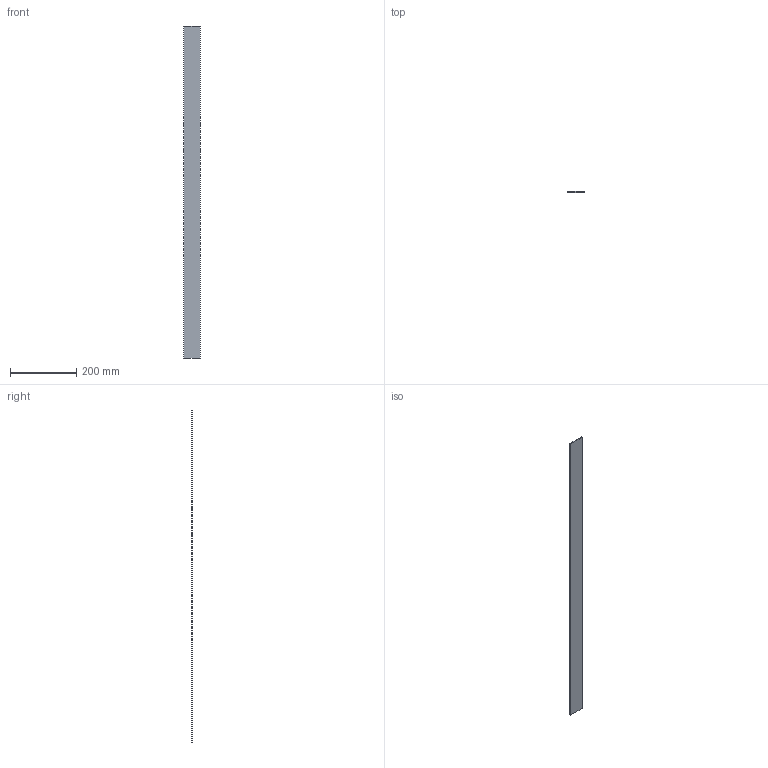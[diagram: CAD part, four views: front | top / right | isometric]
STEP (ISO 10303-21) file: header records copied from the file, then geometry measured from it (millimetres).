
FILE_DESCRIPTION (( 'STEP AP214' ), '1' );
FILE_NAME ('AFB503.STEP', '2025-06-12T18:23:01', ( '' ), ( '' ), 'SwSTEP 2.0', 'SolidWorks 2023', '' );
FILE_SCHEMA (( 'AUTOMOTIVE_DESIGN' ));
Length unit declared in the file: millimetre
Products named in the file (1): AFB503
Bounding box: 50 x 3 x 1000 mm (x, y, z)
Volume: 150000 mm3; surface area: 106300 mm2
Topology: 1 solids, 1 shells, 6 faces, 12 edges, 8 vertices
Faces by surface type: plane 6
Entity records: 179 total; most frequent: CARTESIAN_POINT 27, DIRECTION 26, ORIENTED_EDGE 24, EDGE_CURVE 12, LINE 12, VECTOR 12, VERTEX_POINT 8, AXIS2_PLACEMENT_3D 7
